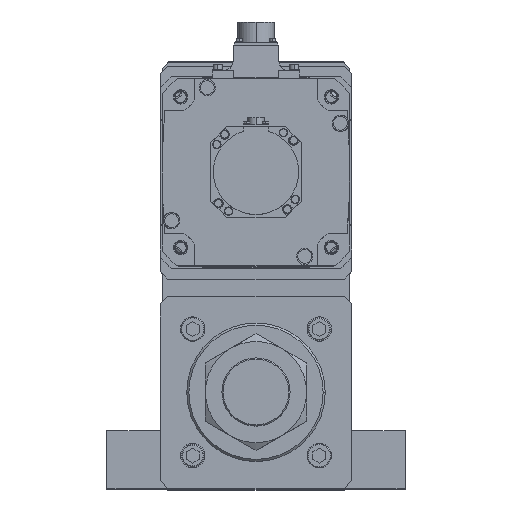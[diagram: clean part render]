
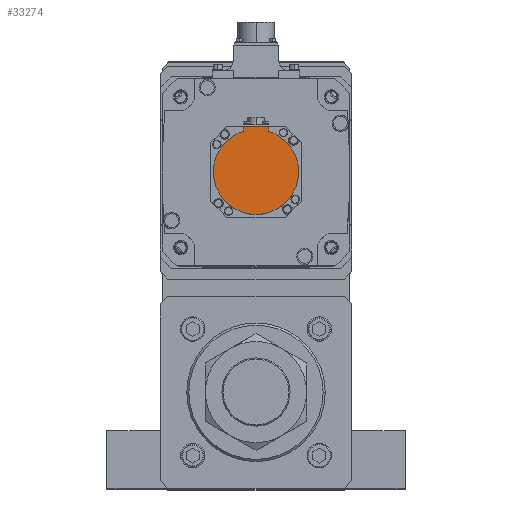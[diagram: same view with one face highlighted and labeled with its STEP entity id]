
A CAD part, top view. The second image highlights one B-rep face of the part: STEP entity #33274.
In plain terms, the highlighted planar face has unit normal (0, 0, 1) as drawn and (0, 0, -1) by its records, which use the part's own axes.
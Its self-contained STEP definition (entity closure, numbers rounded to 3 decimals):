
#1363 = FACE_OUTER_BOUND ( 'NONE', #19018, .T. ) ;
#2350 = AXIS2_PLACEMENT_3D ( 'NONE', #35778, #48121, #16388 ) ;
#2797 = VECTOR ( 'NONE', #27791, 1000. ) ;
#3380 = VECTOR ( 'NONE', #41747, 1000. ) ;
#3497 = CIRCLE ( 'NONE', #12057, 40. ) ;
#5915 = ORIENTED_EDGE ( 'NONE', *, *, #30999, .F. ) ;
#6403 = EDGE_CURVE ( 'NONE', #29182, #30604, #29178, .T. ) ;
#6718 = CARTESIAN_POINT ( 'NONE',  ( 0., 0., -178.5 ) ) ;
#7298 = VERTEX_POINT ( 'NONE', #35321 ) ;
#10310 = CARTESIAN_POINT ( 'NONE',  ( -40., 0., -178.5 ) ) ;
#11385 = DIRECTION ( 'NONE',  ( 1., 0., 0. ) ) ;
#11450 = DIRECTION ( 'NONE',  ( -1., 0., 0. ) ) ;
#11455 = EDGE_CURVE ( 'NONE', #34187, #38339, #12187, .T. ) ;
#11913 = DIRECTION ( 'NONE',  ( 0., 0., 1. ) ) ;
#12057 = AXIS2_PLACEMENT_3D ( 'NONE', #44614, #11913, #11385 ) ;
#12187 = CIRCLE ( 'NONE', #39340, 40. ) ;
#14425 = CARTESIAN_POINT ( 'NONE',  ( 0., 0., -178.5 ) ) ;
#16388 = DIRECTION ( 'NONE',  ( 1., 0., 0. ) ) ;
#17674 = DIRECTION ( 'NONE',  ( 1., 0., 0. ) ) ;
#18014 = EDGE_CURVE ( 'NONE', #38339, #51118, #49563, .T. ) ;
#19018 = EDGE_LOOP ( 'NONE', ( #34364, #5915, #37707, #42642, #37871, #38986 ) ) ;
#21267 = CARTESIAN_POINT ( 'NONE',  ( 12., -1.249, -178.5 ) ) ;
#24454 = PLANE ( 'NONE',  #2350 ) ;
#26105 = DIRECTION ( 'NONE',  ( 0., 0., 1. ) ) ;
#27196 = DIRECTION ( 'NONE',  ( 1., 0., 0. ) ) ;
#27451 = EDGE_CURVE ( 'NONE', #7298, #34187, #32976, .T. ) ;
#27791 = DIRECTION ( 'NONE',  ( 0., 1., 0. ) ) ;
#29178 = LINE ( 'NONE', #48207, #2797 ) ;
#29182 = VERTEX_POINT ( 'NONE', #41381 ) ;
#29794 = CARTESIAN_POINT ( 'NONE',  ( 12., -38.158, -178.5 ) ) ;
#30604 = VERTEX_POINT ( 'NONE', #44995 ) ;
#30999 = EDGE_CURVE ( 'NONE', #51118, #30604, #3497, .T. ) ;
#32976 = LINE ( 'NONE', #21267, #3380 ) ;
#33274 = ADVANCED_FACE ( 'NONE', ( #1363 ), #24454, .F. ) ;
#34187 = VERTEX_POINT ( 'NONE', #29794 ) ;
#34364 = ORIENTED_EDGE ( 'NONE', *, *, #6403, .T. ) ;
#35321 = CARTESIAN_POINT ( 'NONE',  ( 12., -42.5, -178.5 ) ) ;
#35778 = CARTESIAN_POINT ( 'NONE',  ( 0., -1.249, -178.5 ) ) ;
#35882 = EDGE_CURVE ( 'NONE', #7298, #29182, #52052, .T. ) ;
#37707 = ORIENTED_EDGE ( 'NONE', *, *, #18014, .F. ) ;
#37871 = ORIENTED_EDGE ( 'NONE', *, *, #27451, .F. ) ;
#38339 = VERTEX_POINT ( 'NONE', #39522 ) ;
#38986 = ORIENTED_EDGE ( 'NONE', *, *, #35882, .T. ) ;
#39340 = AXIS2_PLACEMENT_3D ( 'NONE', #6718, #43694, #27196 ) ;
#39522 = CARTESIAN_POINT ( 'NONE',  ( 40., 0., -178.5 ) ) ;
#39843 = CARTESIAN_POINT ( 'NONE',  ( 0., -42.5, -178.5 ) ) ;
#41381 = CARTESIAN_POINT ( 'NONE',  ( -12., -42.5, -178.5 ) ) ;
#41747 = DIRECTION ( 'NONE',  ( 0., 1., 0. ) ) ;
#42342 = AXIS2_PLACEMENT_3D ( 'NONE', #14425, #26105, #17674 ) ;
#42642 = ORIENTED_EDGE ( 'NONE', *, *, #11455, .F. ) ;
#43694 = DIRECTION ( 'NONE',  ( 0., 0., 1. ) ) ;
#44614 = CARTESIAN_POINT ( 'NONE',  ( 0., 0., -178.5 ) ) ;
#44995 = CARTESIAN_POINT ( 'NONE',  ( -12., -38.158, -178.5 ) ) ;
#48121 = DIRECTION ( 'NONE',  ( 0., 0., 1. ) ) ;
#48207 = CARTESIAN_POINT ( 'NONE',  ( -12., -40.329, -178.5 ) ) ;
#49563 = CIRCLE ( 'NONE', #42342, 40. ) ;
#51118 = VERTEX_POINT ( 'NONE', #10310 ) ;
#51403 = VECTOR ( 'NONE', #11450, 1000. ) ;
#52052 = LINE ( 'NONE', #39843, #51403 ) ;
